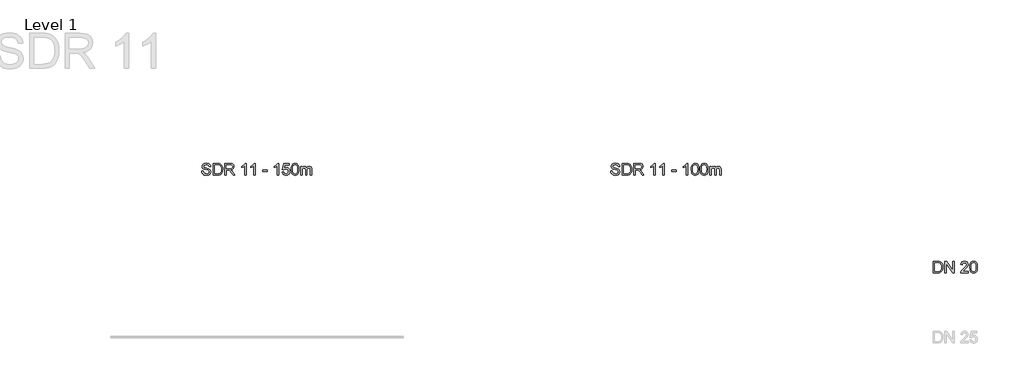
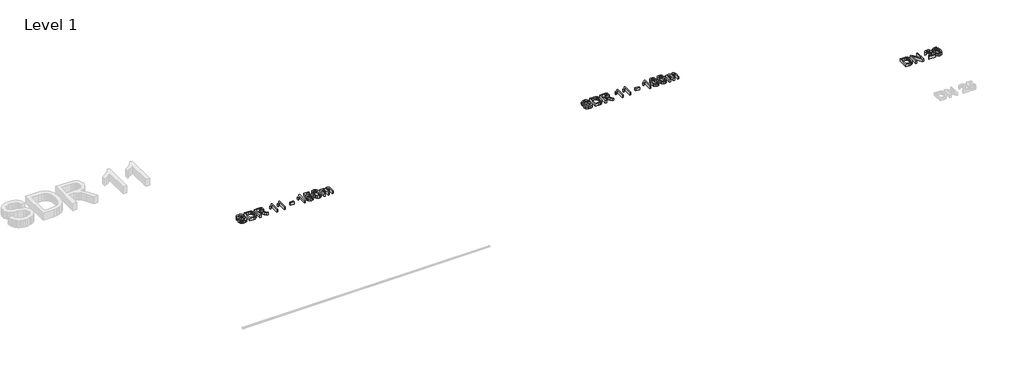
# One storey, part 6 of 6: 3 proxies.
"""IFC4 building model written with IfcOpenShell, lengths in millimetres."""

from ifc_helpers import new_model, si_unit, origin, origin_with_axes, place, context, project, spatial, polyline, outline, extrude, element, save

model = new_model("IFC4")

# Units and contexts
model_context = context("Model", 3, world=origin())
ifc_project = project(units=[si_unit("LENGTHUNIT", "METRE", prefix="MILLI")], contexts=[model_context])

# Site, building, storey
site = spatial("IfcSite", under=ifc_project)
building = spatial("IfcBuilding", under=site)
storey = spatial("IfcBuildingStorey", under=building, Name="Level 1", Elevation=0.0)

# Proxies
placement = place(None, origin())
element("IfcBuildingElementProxy", 1, Name="200mm Arial", ObjectType="200mm Arial", at=placement, inside=storey, context=model_context, shape_type="SweptSolid", body=[
    extrude(outline(polyline([(-7979.1539224, 2231.0128426), (-7954.0398449, 2231.0128426), (-7945.946441, 2205.8742396), (-7937.8162489, 2196.983758), (-7926.1789151, 2189.9817374), (-7911.9541446, 2185.4383947), (-7896.0616424, 2183.9239472), (-7869.8193934, 2188.5102094), (-7852.8722962, 2201.1162991), (-7847.3050153, 2217.9652945), (-7851.4743446, 2233.6370675), (-7857.8264404, 2239.8358791), (-7868.5440692, 2245.0414093), (-7905.1115395, 2254.6308667), (-7944.474913, 2267.0162272), (-7956.9767695, 2275.4652503), (-7965.8365942, 2285.7046325), (-7971.1157008, 2297.5136446), (-7972.875403, 2310.6715573), (-7970.6987679, 2325.3807057), (-7964.1688625, 2339.0965728), (-7953.457365, 2350.7216438), (-7938.7359539, 2359.1584042), (-7921.0653554, 2364.2903581), (-7901.506296, 2366.0010093), (-7880.316293, 2364.2106503), (-7861.7750405, 2358.8395732), (-7846.5447259, 2349.9981425), (-7835.2875368, 2337.796723), (-7828.1628889, 2322.9956041), (-7825.3301975, 2306.3550752), (-7850.444275, 2306.3550752), (-7855.0550627, 2321.3401351), (-7864.6690455, 2332.1558658), (-7879.6908936, 2338.7041653), (-7900.5252773, 2340.8869318), (-7921.8501703, 2338.7286908), (-7936.479611, 2332.2539676), (-7944.9408969, 2322.725824), (-7947.7613255, 2311.4073212), (-7945.7625, 2301.7565502), (-7939.7660235, 2293.9942401), (-7925.5903039, 2287.0535332), (-7898.7594437, 2279.9656734), (-7854.3192987, 2267.3595837), (-7840.0025577, 2258.2483729), (-7830.0145616, 2247.0034466), (-7824.1468437, 2233.7474321), (-7822.1909378, 2218.6029566), (-7824.4411493, 2203.121256), (-7831.1917839, 2188.5592603), (-7842.1669301, 2176.026747), (-7857.0906764, 2166.6334934), (-7875.0371864, 2160.7657756), (-7895.0806238, 2158.8098696), (-7919.6857979, 2160.9190598), (-7939.9377017, 2167.2466301), (-7956.0693272, 2177.8171061), (-7968.3136663, 2192.6550132), (-7976.1740782, 2210.7302819), (-7979.1539224, 2231.0128426)])), origin_with_axes(), (0.0, 0.0, 1.0), 50.0),
    extrude(outline(polyline([(-7784.5198215, 2161.9491293), (-7784.5198215, 2362.8617496), (-7715.2108536, 2362.8617496), (-7679.3546218, 2359.9677446), (-7663.3394923, 2354.388201), (-7649.8259603, 2345.5958213), (-7635.9322836, 2330.2919303), (-7626.036258, 2311.2601685), (-7620.1133578, 2288.8684177), (-7618.1390578, 2263.48456), (-7623.4856095, 2222.9439641), (-7637.2198706, 2193.6850828), (-7655.5649194, 2175.4626613), (-7679.575351, 2165.3826946), (-7711.8753902, 2161.9491293), (-7784.5198215, 2161.9491293)]), holes=[polyline([(-7759.405744, 2187.0632069), (-7714.9655989, 2187.0632069), (-7682.6410343, 2190.6929759), (-7664.0016799, 2200.9446208), (-7655.2767452, 2211.8155338), (-7648.7223143, 2225.8870201), (-7644.6204301, 2243.2203934), (-7643.2531353, 2263.8769675), (-7645.9325425, 2291.2473879), (-7653.9707641, 2311.4563722), (-7665.8472212, 2325.3377861), (-7680.0413349, 2333.7254956), (-7715.652312, 2337.7476721), (-7759.405744, 2337.7476721), (-7759.405744, 2187.0632069)])]), origin_with_axes(), (0.0, 0.0, 1.0), 50.0),
    extrude(outline(polyline([(-7583.6072012, 2161.9491293), (-7583.6072012, 2362.8617496), (-7497.032305, 2362.8617496), (-7473.7637688, 2361.5067176), (-7456.8350657, 2357.4416216), (-7444.4619679, 2349.9368289), (-7434.8602478, 2338.2627069), (-7428.6982244, 2323.7865504), (-7426.6442166, 2307.8756541), (-7430.047125, 2288.0836028), (-7440.2558504, 2271.6760658), (-7457.576961, 2259.6463245), (-7482.3170252, 2252.9876604), (-7468.0432038, 2242.2455062), (-7447.6870667, 2216.3956646), (-7414.1852797, 2161.9491293), (-7443.3705846, 2161.9491293), (-7469.5147318, 2203.5933712), (-7488.3993408, 2231.1599954), (-7501.6676181, 2244.183018), (-7513.6115202, 2248.9654839), (-7528.1796473, 2249.8484007), (-7558.4931237, 2249.8484007), (-7558.4931237, 2161.9491293), (-7583.6072012, 2161.9491293)]), holes=[polyline([(-7558.4931237, 2274.9624783), (-7502.2807548, 2274.9624783), (-7473.6104846, 2278.5186709), (-7464.1804428, 2283.1417213), (-7457.325575, 2289.8984873), (-7451.7582941, 2306.9436864), (-7454.4131759, 2319.1941568), (-7462.377821, 2329.065657), (-7476.0814254, 2335.5771683), (-7495.9531845, 2337.7476721), (-7558.4931237, 2337.7476721), (-7558.4931237, 2274.9624783)])]), origin_with_axes(), (0.0, 0.0, 1.0), 50.0),
    extrude(outline(polyline([(-7219.4530769, 2161.9491293), (-7244.5671544, 2161.9491293), (-7244.5671544, 2318.5197065), (-7268.3568568, 2301.5726092), (-7294.7953095, 2288.8929431), (-7294.7953095, 2312.6335946), (-7257.9825845, 2336.1289913), (-7244.5119721, 2349.7038369), (-7235.6398847, 2362.8617496), (-7219.4530769, 2362.8617496), (-7219.4530769, 2161.9491293)])), origin_with_axes(), (0.0, 0.0, 1.0), 50.0),
    extrude(outline(polyline([(-7065.629352, 2161.9491293), (-7090.7434295, 2161.9491293), (-7090.7434295, 2318.5197065), (-7114.5331319, 2301.5726092), (-7140.9715846, 2288.8929431), (-7140.9715846, 2312.6335946), (-7104.1588596, 2336.1289913), (-7090.6882472, 2349.7038369), (-7081.8161598, 2362.8617496), (-7065.629352, 2362.8617496), (-7065.629352, 2161.9491293)])), origin_with_axes(), (0.0, 0.0, 1.0), 50.0),
    extrude(outline(polyline([(-6933.7804449, 2221.5950635), (-6933.7804449, 2246.709141), (-6855.2989526, 2246.709141), (-6855.2989526, 2221.5950635), (-6933.7804449, 2221.5950635)])), origin_with_axes(), (0.0, 0.0, 1.0), 50.0),
    extrude(outline(polyline([(-6660.6648517, 2161.9491293), (-6685.7789292, 2161.9491293), (-6685.7789292, 2318.5197065), (-6709.5686316, 2301.5726092), (-6736.0070843, 2288.8929431), (-6736.0070843, 2312.6335946), (-6699.1943593, 2336.1289913), (-6685.7237469, 2349.7038369), (-6676.8516595, 2362.8617496), (-6660.6648517, 2362.8617496), (-6660.6648517, 2161.9491293)])), origin_with_axes(), (0.0, 0.0, 1.0), 50.0),
    extrude(outline(polyline([(-6601.0189175, 2215.3165441), (-6575.90484, 2218.4558038), (-6571.2940523, 2203.3787734), (-6563.2496994, 2192.5814368), (-6551.8085693, 2186.0883196), (-6537.0074504, 2183.9239472), (-6519.0057581, 2186.9344482), (-6505.5167516, 2195.9659512), (-6497.0922539, 2209.9761238), (-6494.284088, 2227.9226338), (-6496.9144443, 2244.8206801), (-6504.8055131, 2257.7456009), (-6518.0186081, 2265.9493694), (-6536.6150429, 2268.6839589), (-6558.6634372, 2264.3184259), (-6572.7655803, 2252.9876604), (-6597.8796578, 2256.1269201), (-6575.90484, 2359.7224899), (-6478.5877895, 2359.7224899), (-6478.5877895, 2334.6084124), (-6555.5977539, 2334.6084124), (-6566.3399081, 2279.2789603), (-6548.3995295, 2290.1682674), (-6529.6007595, 2293.7980364), (-6506.1360196, 2289.2976133), (-6486.656668, 2275.7963441), (-6473.5416748, 2255.2194779), (-6469.1700105, 2229.4922637), (-6473.1063478, 2204.3781861), (-6484.9153599, 2182.8938776), (-6495.3509458, 2172.3571241), (-6507.5278398, 2164.8308716), (-6521.446042, 2160.3151201), (-6537.1055522, 2158.8098696), (-6561.77204, 2162.678762), (-6581.4230699, 2174.2854389), (-6594.8936823, 2192.2809998), (-6601.0189175, 2215.3165441)])), origin_with_axes(), (0.0, 0.0, 1.0), 50.0),
    extrude(outline(polyline([(-6447.1951926, 2260.7867587), (-6445.3496513, 2292.9457765), (-6439.8130273, 2318.5932829), (-6430.6405028, 2338.1216855), (-6417.8872603, 2351.9233917), (-6401.4613293, 2360.1271601), (-6381.2707391, 2362.8617496), (-6365.7951698, 2361.2430689), (-6351.9382813, 2356.3870265), (-6340.3499985, 2348.483695), (-6331.6802461, 2337.7231466), (-6319.9080223, 2307.9982814), (-6315.3462856, 2260.7867587), (-6317.1734328, 2228.811682), (-6322.6548745, 2203.2254892), (-6331.7722166, 2183.6786925), (-6344.507065, 2169.821804), (-6360.9697843, 2161.5628532), (-6381.2707391, 2158.8098696), (-6407.3658353, 2163.5923356), (-6427.1824121, 2177.9397334), (-6435.9380036, 2193.0688805), (-6442.1919975, 2211.919767), (-6447.1951926, 2260.7867587)]), holes=[polyline([(-6422.0811151, 2260.8358096), (-6419.1380591, 2221.3314147), (-6410.3088912, 2198.4675487), (-6397.1632413, 2187.5598476), (-6381.2707391, 2183.9239472), (-6365.3782369, 2187.5721103), (-6352.2325869, 2198.5165997), (-6343.4034191, 2221.3927284), (-6340.4603631, 2260.8358096), (-6343.3053172, 2299.4511564), (-6351.8401795, 2322.492832), (-6364.961304, 2333.9339621), (-6381.5650447, 2337.7476721), (-6397.2858686, 2334.3876832), (-6409.9164838, 2324.3077165), (-6419.0399573, 2299.8313011), (-6422.0811151, 2260.8358096)])]), origin_with_axes(), (0.0, 0.0, 1.0), 50.0),
    extrude(outline(polyline([(-6287.0929483, 2161.9491293), (-6287.0929483, 2309.4943349), (-6261.9788708, 2309.4943349), (-6261.9788708, 2285.2141232), (-6254.4250272, 2296.367079), (-6244.7129425, 2305.1042764), (-6233.1737106, 2310.751265), (-6220.1384252, 2312.6335946), (-6206.1711721, 2310.7144768), (-6194.9752967, 2304.9571236), (-6186.6121127, 2295.7416796), (-6181.1429337, 2283.4482896), (-6171.9888034, 2296.2168605), (-6161.5470861, 2305.3372683), (-6149.8177818, 2310.809513), (-6136.8008906, 2312.6335946), (-6117.9224128, 2309.5985681), (-6103.9612911, 2300.4934887), (-6095.3344583, 2285.0731018), (-6092.4588474, 2263.0921525), (-6092.4588474, 2161.9491293), (-6117.5729249, 2161.9491293), (-6117.5729249, 2252.3009474), (-6119.9028442, 2273.2702211), (-6128.3396047, 2283.5954424), (-6142.6870025, 2287.519517), (-6156.2925049, 2285.0056567), (-6167.3841471, 2277.4640758), (-6174.7601811, 2264.3797395), (-6177.2188591, 2245.237613), (-6177.2188591, 2161.9491293), (-6202.3329366, 2161.9491293), (-6202.3329366, 2255.0968505), (-6203.7860705, 2269.2970955), (-6208.1454722, 2279.4261131), (-6215.8158118, 2285.4961661), (-6227.2017595, 2287.519517), (-6245.792063, 2282.1239144), (-6253.1497029, 2275.4775131), (-6258.152898, 2266.3295141), (-6261.9788708, 2236.3593942), (-6261.9788708, 2161.9491293), (-6287.0929483, 2161.9491293)])), origin_with_axes(), (0.0, 0.0, 1.0), 50.0),
])
element("IfcBuildingElementProxy", 2, Name="200mm Arial", ObjectType="200mm Arial", at=placement, inside=storey, context=model_context, shape_type="SweptSolid", body=[
    extrude(outline(polyline([(4539.3076926, 486.050427), (4539.3076926, 686.9630473), (4608.6166605, 686.9630473), (4644.4728923, 684.0690423), (4660.4880218, 678.4894987), (4674.0015538, 669.697119), (4687.8952305, 654.393228), (4697.7912562, 635.3614662), (4703.7141563, 612.9697154), (4705.6884563, 587.5858577), (4700.3419047, 547.0452618), (4686.6076435, 517.7863805), (4668.2625947, 499.563959), (4644.2521631, 489.4839923), (4611.9521239, 486.050427), (4539.3076926, 486.050427)]), holes=[polyline([(4564.4217702, 511.1645046), (4608.8619152, 511.1645046), (4641.1864798, 514.7942736), (4659.8258342, 525.0459185), (4668.5507689, 535.9168315), (4675.1051998, 549.9883178), (4679.207084, 567.3216911), (4680.5743788, 587.9782652), (4677.8949716, 615.3486856), (4669.85675, 635.5576699), (4657.9802929, 649.4390838), (4643.7861793, 657.8267933), (4608.1752021, 661.8489698), (4564.4217702, 661.8489698), (4564.4217702, 511.1645046)])]), origin_with_axes(), (0.0, 0.0, 1.0), 50.0),
    extrude(outline(polyline([(4740.2203129, 486.050427), (4740.2203129, 686.9630473), (4767.100224, 686.9630473), (4872.06922, 527.7927708), (4872.06922, 686.9630473), (4897.1832975, 686.9630473), (4897.1832975, 486.050427), (4870.3033864, 486.050427), (4765.3343905, 645.2697546), (4765.3343905, 486.050427), (4740.2203129, 486.050427)])), origin_with_axes(), (0.0, 0.0, 1.0), 50.0),
    extrude(outline(polyline([(5138.9062938, 511.1645046), (5138.9062938, 486.050427), (5007.0573868, 486.050427), (5009.7551881, 503.3654063), (5025.0100281, 530.0245882), (5056.451676, 559.1363168), (5099.8127005, 600.9767623), (5107.9428926, 615.3977366), (5110.6529566, 629.4263033), (5108.0961767, 642.0017362), (5100.4258371, 652.4557162), (5088.6352192, 659.5006564), (5073.7176043, 661.8489698), (5058.0519627, 659.5558387), (5045.8812, 652.6764454), (5038.0269194, 641.7503501), (5035.310724, 627.3171132), (5010.1966465, 630.4563729), (5016.2850935, 654.7488473), (5029.4491375, 672.4930222), (5049.0020656, 683.3455411), (5074.2571645, 686.9630473), (5099.6962045, 682.9408709), (5119.2123444, 670.8743414), (5131.6283617, 652.8481237), (5135.7670341, 630.9468822), (5131.3033993, 607.1326544), (5116.4654921, 582.5090862), (5080.486633, 548.0998569), (5051.5956336, 523.9422725), (5040.2648682, 511.1645046), (5138.9062938, 511.1645046)])), origin_with_axes(), (0.0, 0.0, 1.0), 50.0),
    extrude(outline(polyline([(5164.0203714, 584.8880564), (5165.8659127, 617.0470742), (5171.4025367, 642.6945806), (5180.5750612, 662.2229832), (5193.3283037, 676.0246894), (5209.7542347, 684.2284578), (5229.9448249, 686.9630473), (5245.4203942, 685.3443666), (5259.2772827, 680.4883242), (5270.8655655, 672.5849927), (5279.5353179, 661.8244443), (5291.3075417, 632.0995791), (5295.8692784, 584.8880564), (5294.0421312, 552.9129797), (5288.5606895, 527.3267869), (5279.4433474, 507.7799902), (5266.708499, 493.9231017), (5250.2457797, 485.664151), (5229.9448249, 482.9111674), (5203.8497287, 487.6936333), (5184.0331519, 502.0410311), (5175.2775604, 517.1701782), (5169.0235665, 536.0210647), (5164.0203714, 584.8880564)]), holes=[polyline([(5189.1344489, 584.9371073), (5192.0775049, 545.4327124), (5200.9066728, 522.5688464), (5214.0523227, 511.6611453), (5229.9448249, 508.0252449), (5245.8373271, 511.673408), (5258.9829771, 522.6178974), (5267.8121449, 545.4940261), (5270.7552009, 584.9371073), (5267.9102468, 623.5524541), (5259.3753845, 646.5941297), (5246.25426, 658.0352598), (5229.6505193, 661.8489698), (5213.9296954, 658.4889809), (5201.2990802, 648.4090143), (5192.1756067, 623.9325988), (5189.1344489, 584.9371073)])]), origin_with_axes(), (0.0, 0.0, 1.0), 50.0),
])
element("IfcBuildingElementProxy", 3, Name="200mm Arial", ObjectType="200mm Arial", at=placement, inside=storey, context=model_context, shape_type="SweptSolid", body=[
    extrude(outline(polyline([(-979.1539224, 2231.0128426), (-954.0398449, 2231.0128426), (-945.946441, 2205.8742396), (-937.8162489, 2196.983758), (-926.1789151, 2189.9817374), (-911.9541446, 2185.4383947), (-896.0616424, 2183.9239472), (-869.8193934, 2188.5102094), (-852.8722962, 2201.1162991), (-847.3050153, 2217.9652945), (-851.4743446, 2233.6370675), (-857.8264404, 2239.8358791), (-868.5440692, 2245.0414093), (-905.1115395, 2254.6308667), (-944.474913, 2267.0162272), (-956.9767695, 2275.4652503), (-965.8365942, 2285.7046325), (-971.1157008, 2297.5136446), (-972.875403, 2310.6715573), (-970.6987679, 2325.3807057), (-964.1688625, 2339.0965728), (-953.457365, 2350.7216438), (-938.7359539, 2359.1584042), (-921.0653554, 2364.2903581), (-901.506296, 2366.0010093), (-880.316293, 2364.2106503), (-861.7750405, 2358.8395732), (-846.5447259, 2349.9981425), (-835.2875368, 2337.796723), (-828.1628889, 2322.9956041), (-825.3301975, 2306.3550752), (-850.444275, 2306.3550752), (-855.0550627, 2321.3401351), (-864.6690455, 2332.1558658), (-879.6908936, 2338.7041653), (-900.5252773, 2340.8869318), (-921.8501703, 2338.7286908), (-936.479611, 2332.2539676), (-944.9408969, 2322.725824), (-947.7613255, 2311.4073212), (-945.7625, 2301.7565502), (-939.7660235, 2293.9942401), (-925.5903039, 2287.0535332), (-898.7594437, 2279.9656734), (-854.3192987, 2267.3595837), (-840.0025577, 2258.2483729), (-830.0145616, 2247.0034466), (-824.1468437, 2233.7474321), (-822.1909378, 2218.6029566), (-824.4411493, 2203.121256), (-831.1917839, 2188.5592603), (-842.1669301, 2176.026747), (-857.0906764, 2166.6334934), (-875.0371864, 2160.7657756), (-895.0806238, 2158.8098696), (-919.6857979, 2160.9190598), (-939.9377017, 2167.2466301), (-956.0693272, 2177.8171061), (-968.3136663, 2192.6550132), (-976.1740782, 2210.7302819), (-979.1539224, 2231.0128426)])), origin_with_axes(), (0.0, 0.0, 1.0), 50.0),
    extrude(outline(polyline([(-784.5198215, 2161.9491293), (-784.5198215, 2362.8617496), (-715.2108536, 2362.8617496), (-679.3546218, 2359.9677446), (-663.3394923, 2354.388201), (-649.8259603, 2345.5958213), (-635.9322836, 2330.2919303), (-626.036258, 2311.2601685), (-620.1133578, 2288.8684177), (-618.1390578, 2263.48456), (-623.4856095, 2222.9439641), (-637.2198706, 2193.6850828), (-655.5649194, 2175.4626613), (-679.575351, 2165.3826946), (-711.8753902, 2161.9491293), (-784.5198215, 2161.9491293)]), holes=[polyline([(-759.405744, 2187.0632069), (-714.9655989, 2187.0632069), (-682.6410343, 2190.6929759), (-664.0016799, 2200.9446208), (-655.2767452, 2211.8155338), (-648.7223143, 2225.8870201), (-644.6204301, 2243.2203934), (-643.2531353, 2263.8769675), (-645.9325425, 2291.2473879), (-653.9707641, 2311.4563722), (-665.8472212, 2325.3377861), (-680.0413349, 2333.7254956), (-715.652312, 2337.7476721), (-759.405744, 2337.7476721), (-759.405744, 2187.0632069)])]), origin_with_axes(), (0.0, 0.0, 1.0), 50.0),
    extrude(outline(polyline([(-583.6072012, 2161.9491293), (-583.6072012, 2362.8617496), (-497.032305, 2362.8617496), (-473.7637688, 2361.5067176), (-456.8350657, 2357.4416216), (-444.4619679, 2349.9368289), (-434.8602478, 2338.2627069), (-428.6982244, 2323.7865504), (-426.6442166, 2307.8756541), (-430.047125, 2288.0836028), (-440.2558504, 2271.6760658), (-457.576961, 2259.6463245), (-482.3170252, 2252.9876604), (-468.0432038, 2242.2455062), (-447.6870667, 2216.3956646), (-414.1852797, 2161.9491293), (-443.3705846, 2161.9491293), (-469.5147318, 2203.5933712), (-488.3993408, 2231.1599954), (-501.6676181, 2244.183018), (-513.6115202, 2248.9654839), (-528.1796473, 2249.8484007), (-558.4931237, 2249.8484007), (-558.4931237, 2161.9491293), (-583.6072012, 2161.9491293)]), holes=[polyline([(-558.4931237, 2274.9624783), (-502.2807548, 2274.9624783), (-473.6104846, 2278.5186709), (-464.1804428, 2283.1417213), (-457.325575, 2289.8984873), (-451.7582941, 2306.9436864), (-454.4131759, 2319.1941568), (-462.377821, 2329.065657), (-476.0814254, 2335.5771683), (-495.9531845, 2337.7476721), (-558.4931237, 2337.7476721), (-558.4931237, 2274.9624783)])]), origin_with_axes(), (0.0, 0.0, 1.0), 50.0),
    extrude(outline(polyline([(-219.4530769, 2161.9491293), (-244.5671544, 2161.9491293), (-244.5671544, 2318.5197065), (-268.3568568, 2301.5726092), (-294.7953095, 2288.8929431), (-294.7953095, 2312.6335946), (-257.9825845, 2336.1289913), (-244.5119721, 2349.7038369), (-235.6398847, 2362.8617496), (-219.4530769, 2362.8617496), (-219.4530769, 2161.9491293)])), origin_with_axes(), (0.0, 0.0, 1.0), 50.0),
    extrude(outline(polyline([(-65.629352, 2161.9491293), (-90.7434295, 2161.9491293), (-90.7434295, 2318.5197065), (-114.5331319, 2301.5726092), (-140.9715846, 2288.8929431), (-140.9715846, 2312.6335946), (-104.1588596, 2336.1289913), (-90.6882472, 2349.7038369), (-81.8161598, 2362.8617496), (-65.629352, 2362.8617496), (-65.629352, 2161.9491293)])), origin_with_axes(), (0.0, 0.0, 1.0), 50.0),
    extrude(outline(polyline([(66.2195551, 2221.5950635), (66.2195551, 2246.709141), (144.7010474, 2246.709141), (144.7010474, 2221.5950635), (66.2195551, 2221.5950635)])), origin_with_axes(), (0.0, 0.0, 1.0), 50.0),
    extrude(outline(polyline([(339.3351483, 2161.9491293), (314.2210708, 2161.9491293), (314.2210708, 2318.5197065), (290.4313684, 2301.5726092), (263.9929157, 2288.8929431), (263.9929157, 2312.6335946), (300.8056407, 2336.1289913), (314.2762531, 2349.7038369), (323.1483405, 2362.8617496), (339.3351483, 2362.8617496), (339.3351483, 2161.9491293)])), origin_with_axes(), (0.0, 0.0, 1.0), 50.0),
    extrude(outline(polyline([(398.9810825, 2260.7867587), (400.8266238, 2292.9457765), (406.3632478, 2318.5932829), (415.5357722, 2338.1216855), (428.2890147, 2351.9233917), (444.7149458, 2360.1271601), (464.905536, 2362.8617496), (480.3811053, 2361.2430689), (494.2379937, 2356.3870265), (505.8262766, 2348.483695), (514.4960289, 2337.7231466), (526.2682528, 2307.9982814), (530.8299895, 2260.7867587), (529.0028423, 2228.811682), (523.5214006, 2203.2254892), (514.4040584, 2183.6786925), (501.66921, 2169.821804), (485.2064908, 2161.5628532), (464.905536, 2158.8098696), (438.8104398, 2163.5923356), (418.993863, 2177.9397334), (410.2382715, 2193.0688805), (403.9842776, 2211.919767), (398.9810825, 2260.7867587)]), holes=[polyline([(424.09516, 2260.8358096), (427.038216, 2221.3314147), (435.8673838, 2198.4675487), (449.0130338, 2187.5598476), (464.905536, 2183.9239472), (480.7980382, 2187.5721103), (493.9436881, 2198.5165997), (502.772856, 2221.3927284), (505.715912, 2260.8358096), (502.8709579, 2299.4511564), (494.3360956, 2322.492832), (481.2149711, 2333.9339621), (464.6112304, 2337.7476721), (448.8904065, 2334.3876832), (436.2597913, 2324.3077165), (427.1363178, 2299.8313011), (424.09516, 2260.8358096)])]), origin_with_axes(), (0.0, 0.0, 1.0), 50.0),
    extrude(outline(polyline([(552.8048074, 2260.7867587), (554.6503487, 2292.9457765), (560.1869727, 2318.5932829), (569.3594972, 2338.1216855), (582.1127397, 2351.9233917), (598.5386707, 2360.1271601), (618.7292609, 2362.8617496), (634.2048302, 2361.2430689), (648.0617187, 2356.3870265), (659.6500015, 2348.483695), (668.3197539, 2337.7231466), (680.0919777, 2307.9982814), (684.6537144, 2260.7867587), (682.8265672, 2228.811682), (677.3451255, 2203.2254892), (668.2277834, 2183.6786925), (655.492935, 2169.821804), (639.0302157, 2161.5628532), (618.7292609, 2158.8098696), (592.6341647, 2163.5923356), (572.8175879, 2177.9397334), (564.0619964, 2193.0688805), (557.8080025, 2211.919767), (552.8048074, 2260.7867587)]), holes=[polyline([(577.9188849, 2260.8358096), (580.8619409, 2221.3314147), (589.6911088, 2198.4675487), (602.8367587, 2187.5598476), (618.7292609, 2183.9239472), (634.6217631, 2187.5721103), (647.7674131, 2198.5165997), (656.5965809, 2221.3927284), (659.5396369, 2260.8358096), (656.6946828, 2299.4511564), (648.1598205, 2322.492832), (635.038696, 2333.9339621), (618.4349553, 2337.7476721), (602.7141314, 2334.3876832), (590.0835162, 2324.3077165), (580.9600427, 2299.8313011), (577.9188849, 2260.8358096)])]), origin_with_axes(), (0.0, 0.0, 1.0), 50.0),
    extrude(outline(polyline([(712.9070517, 2161.9491293), (712.9070517, 2309.4943349), (738.0211292, 2309.4943349), (738.0211292, 2285.2141232), (745.5749728, 2296.367079), (755.2870575, 2305.1042764), (766.8262894, 2310.751265), (779.8615748, 2312.6335946), (793.8288279, 2310.7144768), (805.0247033, 2304.9571236), (813.3878873, 2295.7416796), (818.8570663, 2283.4482896), (828.0111966, 2296.2168605), (838.4529139, 2305.3372683), (850.1822182, 2310.809513), (863.1991094, 2312.6335946), (882.0775872, 2309.5985681), (896.0387089, 2300.4934887), (904.6655417, 2285.0731018), (907.5411526, 2263.0921525), (907.5411526, 2161.9491293), (882.4270751, 2161.9491293), (882.4270751, 2252.3009474), (880.0971558, 2273.2702211), (871.6603953, 2283.5954424), (857.3129975, 2287.519517), (843.7074951, 2285.0056567), (832.6158529, 2277.4640758), (825.2398189, 2264.3797395), (822.7811409, 2245.237613), (822.7811409, 2161.9491293), (797.6670634, 2161.9491293), (797.6670634, 2255.0968505), (796.2139295, 2269.2970955), (791.8545278, 2279.4261131), (784.1841882, 2285.4961661), (772.7982405, 2287.519517), (754.207937, 2282.1239144), (746.8502971, 2275.4775131), (741.847102, 2266.3295141), (738.0211292, 2236.3593942), (738.0211292, 2161.9491293), (712.9070517, 2161.9491293)])), origin_with_axes(), (0.0, 0.0, 1.0), 50.0),
])

save(model, "model.ifc")
